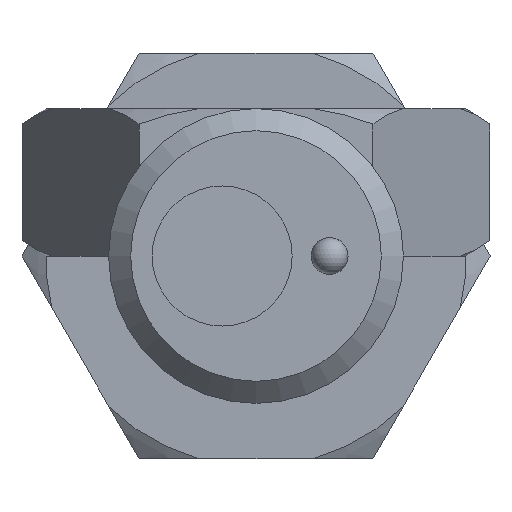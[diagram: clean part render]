
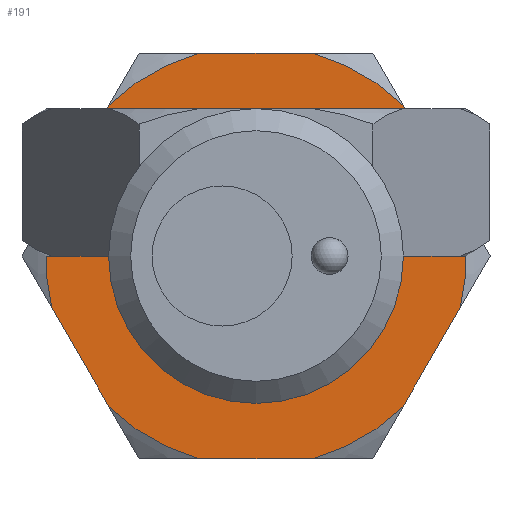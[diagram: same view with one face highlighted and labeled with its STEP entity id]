
A CAD part, left-side view. The second image highlights one B-rep face of the part: STEP entity #191.
In plain terms, the highlighted planar face has unit normal (-1, 0, 0) as drawn and (0, 0, -1) by its records, which use the part's own axes.
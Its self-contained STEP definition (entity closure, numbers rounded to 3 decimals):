
#191 = ADVANCED_FACE( '', ( #239, #240 ), #241, .T. );
#239 = FACE_BOUND( '', #431, .T. );
#240 = FACE_OUTER_BOUND( '', #432, .T. );
#241 = PLANE( '', #433 );
#431 = EDGE_LOOP( '', ( #714 ) );
#432 = EDGE_LOOP( '', ( #715, #716, #717, #718, #719, #720, #721, #722, #723, #724, #725, #726 ) );
#433 = AXIS2_PLACEMENT_3D( '', #727, #728, #729 );
#714 = ORIENTED_EDGE( '', *, *, #879, .F. );
#715 = ORIENTED_EDGE( '', *, *, #885, .T. );
#716 = ORIENTED_EDGE( '', *, *, #886, .T. );
#717 = ORIENTED_EDGE( '', *, *, #847, .T. );
#718 = ORIENTED_EDGE( '', *, *, #864, .T. );
#719 = ORIENTED_EDGE( '', *, *, #865, .T. );
#720 = ORIENTED_EDGE( '', *, *, #887, .T. );
#721 = ORIENTED_EDGE( '', *, *, #888, .T. );
#722 = ORIENTED_EDGE( '', *, *, #889, .T. );
#723 = ORIENTED_EDGE( '', *, *, #890, .T. );
#724 = ORIENTED_EDGE( '', *, *, #891, .T. );
#725 = ORIENTED_EDGE( '', *, *, #855, .T. );
#726 = ORIENTED_EDGE( '', *, *, #892, .T. );
#727 = CARTESIAN_POINT( '', ( 5.5, 9.526, 0. ) );
#728 = DIRECTION( '', ( 0., 0., -1. ) );
#729 = DIRECTION( '', ( -1., 0., 0. ) );
#847 = EDGE_CURVE( '', #915, #916, #917, .T. );
#855 = EDGE_CURVE( '', #931, #932, #933, .T. );
#864 = EDGE_CURVE( '', #916, #947, #949, .T. );
#865 = EDGE_CURVE( '', #947, #950, #951, .T. );
#879 = EDGE_CURVE( '', #973, #973, #974, .T. );
#885 = EDGE_CURVE( '', #983, #984, #985, .T. );
#886 = EDGE_CURVE( '', #984, #915, #986, .T. );
#887 = EDGE_CURVE( '', #950, #987, #988, .T. );
#888 = EDGE_CURVE( '', #987, #989, #990, .T. );
#889 = EDGE_CURVE( '', #989, #991, #992, .T. );
#890 = EDGE_CURVE( '', #991, #993, #994, .T. );
#891 = EDGE_CURVE( '', #993, #931, #995, .T. );
#892 = EDGE_CURVE( '', #932, #983, #996, .T. );
#915 = VERTEX_POINT( '', #1033 );
#916 = VERTEX_POINT( '', #1034 );
#917 = LINE( '', #1035, #1036 );
#931 = VERTEX_POINT( '', #1065 );
#932 = VERTEX_POINT( '', #1066 );
#933 = LINE( '', #1067, #1068 );
#947 = VERTEX_POINT( '', #1097 );
#949 = CIRCLE( '', #1102, 5.717 );
#950 = VERTEX_POINT( '', #1103 );
#951 = LINE( '', #1104, #1105 );
#973 = VERTEX_POINT( '', #1153 );
#974 = CIRCLE( '', #1154, 3.5 );
#983 = VERTEX_POINT( '', #1166 );
#984 = VERTEX_POINT( '', #1167 );
#985 = LINE( '', #1168, #1169 );
#986 = CIRCLE( '', #1170, 5.717 );
#987 = VERTEX_POINT( '', #1171 );
#988 = CIRCLE( '', #1172, 5.717 );
#989 = VERTEX_POINT( '', #1173 );
#990 = LINE( '', #1174, #1175 );
#991 = VERTEX_POINT( '', #1176 );
#992 = CIRCLE( '', #1177, 5.717 );
#993 = VERTEX_POINT( '', #1178 );
#994 = LINE( '', #1179, #1180 );
#995 = CIRCLE( '', #1181, 5.717 );
#996 = CIRCLE( '', #1182, 5.717 );
#1033 = CARTESIAN_POINT( '', ( -4.101, 3.983, 0. ) );
#1034 = CARTESIAN_POINT( '', ( -1.399, 5.543, 0. ) );
#1035 = CARTESIAN_POINT( '', ( -5.5, 3.175, 0. ) );
#1036 = VECTOR( '', #1257, 1000. );
#1065 = CARTESIAN_POINT( '', ( -1.399, -5.543, 0. ) );
#1066 = CARTESIAN_POINT( '', ( -4.101, -3.983, 0. ) );
#1067 = CARTESIAN_POINT( '', ( 0., -6.351, 0. ) );
#1068 = VECTOR( '', #1261, 1000. );
#1097 = CARTESIAN_POINT( '', ( 1.399, 5.543, 0. ) );
#1102 = AXIS2_PLACEMENT_3D( '', #1265, #1266, #1267 );
#1103 = CARTESIAN_POINT( '', ( 4.101, 3.983, 0. ) );
#1104 = CARTESIAN_POINT( '', ( 0., 6.351, 0. ) );
#1105 = VECTOR( '', #1268, 1000. );
#1153 = CARTESIAN_POINT( '', ( -3.5, 0., 0. ) );
#1154 = AXIS2_PLACEMENT_3D( '', #1286, #1287, #1288 );
#1166 = CARTESIAN_POINT( '', ( -5.5, -1.56, 0. ) );
#1167 = CARTESIAN_POINT( '', ( -5.5, 1.56, 0. ) );
#1168 = CARTESIAN_POINT( '', ( -5.5, -3.175, 0. ) );
#1169 = VECTOR( '', #1298, 1000. );
#1170 = AXIS2_PLACEMENT_3D( '', #1299, #1300, #1301 );
#1171 = CARTESIAN_POINT( '', ( 5.5, 1.56, 0. ) );
#1172 = AXIS2_PLACEMENT_3D( '', #1302, #1303, #1304 );
#1173 = CARTESIAN_POINT( '', ( 5.5, -1.56, 0. ) );
#1174 = CARTESIAN_POINT( '', ( 5.5, 3.175, 0. ) );
#1175 = VECTOR( '', #1305, 1000. );
#1176 = CARTESIAN_POINT( '', ( 4.101, -3.983, 0. ) );
#1177 = AXIS2_PLACEMENT_3D( '', #1306, #1307, #1308 );
#1178 = CARTESIAN_POINT( '', ( 1.399, -5.543, 0. ) );
#1179 = CARTESIAN_POINT( '', ( 5.5, -3.175, 0. ) );
#1180 = VECTOR( '', #1309, 1000. );
#1181 = AXIS2_PLACEMENT_3D( '', #1310, #1311, #1312 );
#1182 = AXIS2_PLACEMENT_3D( '', #1313, #1314, #1315 );
#1257 = DIRECTION( '', ( 0.866, 0.5, 0. ) );
#1261 = DIRECTION( '', ( -0.866, 0.5, 0. ) );
#1265 = CARTESIAN_POINT( '', ( 0., 0., 0. ) );
#1266 = DIRECTION( '', ( 0., 0., -1. ) );
#1267 = DIRECTION( '', ( -1., 0., 0. ) );
#1268 = DIRECTION( '', ( 0.866, -0.5, 0. ) );
#1286 = CARTESIAN_POINT( '', ( 0., 0., 0. ) );
#1287 = DIRECTION( '', ( 0., 0., -1. ) );
#1288 = DIRECTION( '', ( -1., 0., 0. ) );
#1298 = DIRECTION( '', ( 0., 1., 0. ) );
#1299 = CARTESIAN_POINT( '', ( 0., 0., 0. ) );
#1300 = DIRECTION( '', ( 0., 0., -1. ) );
#1301 = DIRECTION( '', ( -1., 0., 0. ) );
#1302 = CARTESIAN_POINT( '', ( 0., 0., 0. ) );
#1303 = DIRECTION( '', ( 0., 0., -1. ) );
#1304 = DIRECTION( '', ( -1., 0., 0. ) );
#1305 = DIRECTION( '', ( 0., -1., 0. ) );
#1306 = CARTESIAN_POINT( '', ( 0., 0., 0. ) );
#1307 = DIRECTION( '', ( 0., 0., -1. ) );
#1308 = DIRECTION( '', ( -1., 0., 0. ) );
#1309 = DIRECTION( '', ( -0.866, -0.5, 0. ) );
#1310 = CARTESIAN_POINT( '', ( 0., 0., 0. ) );
#1311 = DIRECTION( '', ( 0., 0., -1. ) );
#1312 = DIRECTION( '', ( -1., 0., 0. ) );
#1313 = CARTESIAN_POINT( '', ( 0., 0., 0. ) );
#1314 = DIRECTION( '', ( 0., 0., -1. ) );
#1315 = DIRECTION( '', ( -1., 0., 0. ) );
